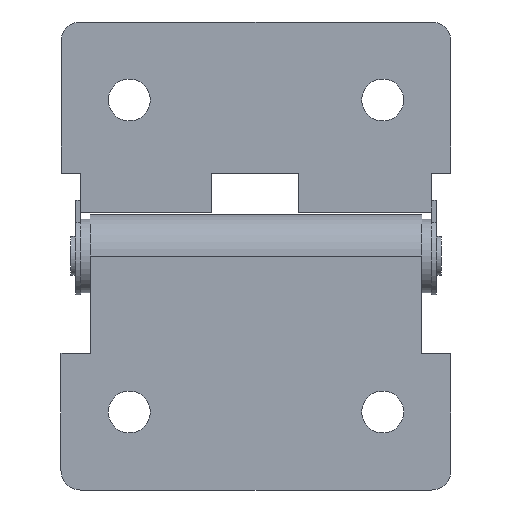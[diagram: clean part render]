
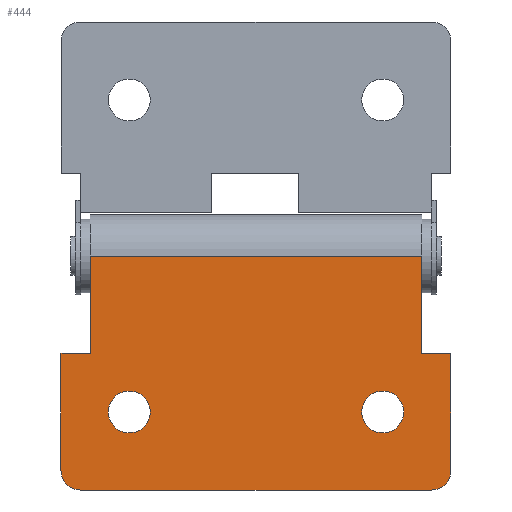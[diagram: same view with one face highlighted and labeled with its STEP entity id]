
A CAD part, front view. The second image highlights one B-rep face of the part: STEP entity #444.
In plain terms, the highlighted planar face has unit normal (0, -1, 0).
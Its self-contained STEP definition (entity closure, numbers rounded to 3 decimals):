
#13 = VERTEX_POINT ( 'NONE', #1693 ) ;
#75 = CARTESIAN_POINT ( 'NONE',  ( 13., 0., -10.15 ) ) ;
#88 = EDGE_LOOP ( 'NONE', ( #695, #1740 ) ) ;
#93 = VERTEX_POINT ( 'NONE', #852 ) ;
#115 = DIRECTION ( 'NONE',  ( 0., 1., 0. ) ) ;
#121 = DIRECTION ( 'NONE',  ( 1., 0., 0. ) ) ;
#134 = EDGE_CURVE ( 'NONE', #2074, #1243, #1000, .T. ) ;
#136 = VERTEX_POINT ( 'NONE', #617 ) ;
#139 = CARTESIAN_POINT ( 'NONE',  ( 13., 0., -8. ) ) ;
#155 = DIRECTION ( 'NONE',  ( 0., 0., 1. ) ) ;
#181 = DIRECTION ( 'NONE',  ( 0., 0., 1. ) ) ;
#224 = EDGE_CURVE ( 'NONE', #2053, #1117, #1739, .T. ) ;
#226 = ORIENTED_EDGE ( 'NONE', *, *, #985, .T. ) ;
#239 = CARTESIAN_POINT ( 'NONE',  ( -20., 0., -24. ) ) ;
#265 = FACE_BOUND ( 'NONE', #88, .T. ) ;
#389 = AXIS2_PLACEMENT_3D ( 'NONE', #2745, #2523, #2284 ) ;
#419 = VERTEX_POINT ( 'NONE', #1497 ) ;
#420 = AXIS2_PLACEMENT_3D ( 'NONE', #1871, #902, #2784 ) ;
#444 = ADVANCED_FACE ( 'NONE', ( #2378, #265, #1213 ), #987, .F. ) ;
#462 = VERTEX_POINT ( 'NONE', #2686 ) ;
#518 = VERTEX_POINT ( 'NONE', #1754 ) ;
#571 = EDGE_CURVE ( 'NONE', #518, #2053, #2474, .T. ) ;
#617 = CARTESIAN_POINT ( 'NONE',  ( 20., 0., -2. ) ) ;
#631 = CIRCLE ( 'NONE', #1273, 2.15 ) ;
#671 = ORIENTED_EDGE ( 'NONE', *, *, #897, .F. ) ;
#686 = CARTESIAN_POINT ( 'NONE',  ( 18., 0., -2. ) ) ;
#695 = ORIENTED_EDGE ( 'NONE', *, *, #134, .T. ) ;
#744 = DIRECTION ( 'NONE',  ( 0., 1., 0. ) ) ;
#789 = CARTESIAN_POINT ( 'NONE',  ( -20., 0., -2. ) ) ;
#794 = ORIENTED_EDGE ( 'NONE', *, *, #571, .F. ) ;
#814 = LINE ( 'NONE', #1505, #868 ) ;
#816 = CARTESIAN_POINT ( 'NONE',  ( 20., 0., -2. ) ) ;
#820 = DIRECTION ( 'NONE',  ( 0., 0., 1. ) ) ;
#852 = CARTESIAN_POINT ( 'NONE',  ( 13., 0., -5.85 ) ) ;
#868 = VECTOR ( 'NONE', #121, 1000. ) ;
#897 = EDGE_CURVE ( 'NONE', #136, #2511, #1043, .T. ) ;
#902 = DIRECTION ( 'NONE',  ( 0., 1., 0. ) ) ;
#944 = LINE ( 'NONE', #3021, #1817 ) ;
#985 = EDGE_CURVE ( 'NONE', #93, #2899, #2015, .T. ) ;
#987 = PLANE ( 'NONE',  #2452 ) ;
#1000 = CIRCLE ( 'NONE', #2720, 2.15 ) ;
#1021 = LINE ( 'NONE', #2677, #2581 ) ;
#1030 = EDGE_CURVE ( 'NONE', #2899, #93, #631, .T. ) ;
#1043 = LINE ( 'NONE', #816, #2159 ) ;
#1045 = EDGE_LOOP ( 'NONE', ( #2610, #1615, #671, #1927, #2479, #2806, #794, #1792, #1503, #2202 ) ) ;
#1076 = DIRECTION ( 'NONE',  ( 0., 0., 1. ) ) ;
#1085 = VECTOR ( 'NONE', #2697, 1000. ) ;
#1102 = DIRECTION ( 'NONE',  ( 0., 1., 0. ) ) ;
#1113 = CARTESIAN_POINT ( 'NONE',  ( 20., 0., -14. ) ) ;
#1117 = VERTEX_POINT ( 'NONE', #2761 ) ;
#1118 = EDGE_CURVE ( 'NONE', #1647, #462, #1600, .T. ) ;
#1119 = VECTOR ( 'NONE', #820, 1000. ) ;
#1213 = FACE_BOUND ( 'NONE', #2282, .T. ) ;
#1215 = DIRECTION ( 'NONE',  ( 0., 0., 1. ) ) ;
#1243 = VERTEX_POINT ( 'NONE', #3019 ) ;
#1258 = EDGE_CURVE ( 'NONE', #419, #136, #2337, .T. ) ;
#1273 = AXIS2_PLACEMENT_3D ( 'NONE', #139, #1102, #181 ) ;
#1296 = CARTESIAN_POINT ( 'NONE',  ( -13., 0., -8. ) ) ;
#1308 = EDGE_CURVE ( 'NONE', #13, #1370, #1021, .T. ) ;
#1320 = CARTESIAN_POINT ( 'NONE',  ( 20., 0., -14. ) ) ;
#1363 = EDGE_CURVE ( 'NONE', #518, #13, #814, .T. ) ;
#1370 = VERTEX_POINT ( 'NONE', #1995 ) ;
#1475 = CIRCLE ( 'NONE', #2990, 2.15 ) ;
#1497 = CARTESIAN_POINT ( 'NONE',  ( 18., 0., 0. ) ) ;
#1503 = ORIENTED_EDGE ( 'NONE', *, *, #1308, .T. ) ;
#1505 = CARTESIAN_POINT ( 'NONE',  ( -20., 0., -14. ) ) ;
#1565 = LINE ( 'NONE', #1113, #1085 ) ;
#1600 = LINE ( 'NONE', #2061, #1821 ) ;
#1615 = ORIENTED_EDGE ( 'NONE', *, *, #3006, .T. ) ;
#1639 = DIRECTION ( 'NONE',  ( 0., 1., 0. ) ) ;
#1647 = VERTEX_POINT ( 'NONE', #2117 ) ;
#1656 = DIRECTION ( 'NONE',  ( 1., 0., 0. ) ) ;
#1693 = CARTESIAN_POINT ( 'NONE',  ( -17., 0., -14. ) ) ;
#1739 = CIRCLE ( 'NONE', #420, 2. ) ;
#1740 = ORIENTED_EDGE ( 'NONE', *, *, #1801, .T. ) ;
#1754 = CARTESIAN_POINT ( 'NONE',  ( -20., 0., -14. ) ) ;
#1792 = ORIENTED_EDGE ( 'NONE', *, *, #1363, .T. ) ;
#1801 = EDGE_CURVE ( 'NONE', #1243, #2074, #1475, .T. ) ;
#1817 = VECTOR ( 'NONE', #1656, 1000. ) ;
#1821 = VECTOR ( 'NONE', #155, 1000. ) ;
#1849 = AXIS2_PLACEMENT_3D ( 'NONE', #686, #1639, #1874 ) ;
#1871 = CARTESIAN_POINT ( 'NONE',  ( -18., 0., -2. ) ) ;
#1874 = DIRECTION ( 'NONE',  ( 0., 0., -1. ) ) ;
#1927 = ORIENTED_EDGE ( 'NONE', *, *, #1258, .F. ) ;
#1929 = CARTESIAN_POINT ( 'NONE',  ( -18., 0., -2. ) ) ;
#1995 = CARTESIAN_POINT ( 'NONE',  ( -17., 0., -24. ) ) ;
#2015 = CIRCLE ( 'NONE', #389, 2.15 ) ;
#2053 = VERTEX_POINT ( 'NONE', #789 ) ;
#2061 = CARTESIAN_POINT ( 'NONE',  ( 17., 0., -28.25 ) ) ;
#2074 = VERTEX_POINT ( 'NONE', #2871 ) ;
#2117 = CARTESIAN_POINT ( 'NONE',  ( 17., 0., -24. ) ) ;
#2119 = VECTOR ( 'NONE', #2125, 1000. ) ;
#2125 = DIRECTION ( 'NONE',  ( -1., 0., 0. ) ) ;
#2159 = VECTOR ( 'NONE', #2835, 1000. ) ;
#2178 = DIRECTION ( 'NONE',  ( 0., 1., 0. ) ) ;
#2202 = ORIENTED_EDGE ( 'NONE', *, *, #2701, .F. ) ;
#2237 = EDGE_CURVE ( 'NONE', #1117, #419, #944, .T. ) ;
#2282 = EDGE_LOOP ( 'NONE', ( #2530, #226 ) ) ;
#2284 = DIRECTION ( 'NONE',  ( 0., 0., 1. ) ) ;
#2325 = LINE ( 'NONE', #239, #2119 ) ;
#2337 = CIRCLE ( 'NONE', #1849, 2. ) ;
#2378 = FACE_OUTER_BOUND ( 'NONE', #1045, .T. ) ;
#2452 = AXIS2_PLACEMENT_3D ( 'NONE', #1929, #2178, #2856 ) ;
#2474 = LINE ( 'NONE', #2917, #1119 ) ;
#2479 = ORIENTED_EDGE ( 'NONE', *, *, #2237, .F. ) ;
#2511 = VERTEX_POINT ( 'NONE', #1320 ) ;
#2523 = DIRECTION ( 'NONE',  ( 0., 1., 0. ) ) ;
#2530 = ORIENTED_EDGE ( 'NONE', *, *, #1030, .T. ) ;
#2581 = VECTOR ( 'NONE', #2923, 1000. ) ;
#2610 = ORIENTED_EDGE ( 'NONE', *, *, #1118, .T. ) ;
#2630 = CARTESIAN_POINT ( 'NONE',  ( -13., 0., -8. ) ) ;
#2677 = CARTESIAN_POINT ( 'NONE',  ( -17., 0., -28.25 ) ) ;
#2686 = CARTESIAN_POINT ( 'NONE',  ( 17., 0., -14. ) ) ;
#2697 = DIRECTION ( 'NONE',  ( 1., 0., 0. ) ) ;
#2701 = EDGE_CURVE ( 'NONE', #1647, #1370, #2325, .T. ) ;
#2720 = AXIS2_PLACEMENT_3D ( 'NONE', #1296, #115, #1076 ) ;
#2745 = CARTESIAN_POINT ( 'NONE',  ( 13., 0., -8. ) ) ;
#2761 = CARTESIAN_POINT ( 'NONE',  ( -18., 0., 0. ) ) ;
#2784 = DIRECTION ( 'NONE',  ( 0., 0., 1. ) ) ;
#2806 = ORIENTED_EDGE ( 'NONE', *, *, #224, .F. ) ;
#2835 = DIRECTION ( 'NONE',  ( 0., 0., -1. ) ) ;
#2856 = DIRECTION ( 'NONE',  ( 0., 0., 1. ) ) ;
#2871 = CARTESIAN_POINT ( 'NONE',  ( -13., 0., -10.15 ) ) ;
#2899 = VERTEX_POINT ( 'NONE', #75 ) ;
#2917 = CARTESIAN_POINT ( 'NONE',  ( -20., 0., -2. ) ) ;
#2923 = DIRECTION ( 'NONE',  ( 0., 0., -1. ) ) ;
#2990 = AXIS2_PLACEMENT_3D ( 'NONE', #2630, #744, #1215 ) ;
#3006 = EDGE_CURVE ( 'NONE', #462, #2511, #1565, .T. ) ;
#3019 = CARTESIAN_POINT ( 'NONE',  ( -13., 0., -5.85 ) ) ;
#3021 = CARTESIAN_POINT ( 'NONE',  ( -18., 0., 0. ) ) ;
